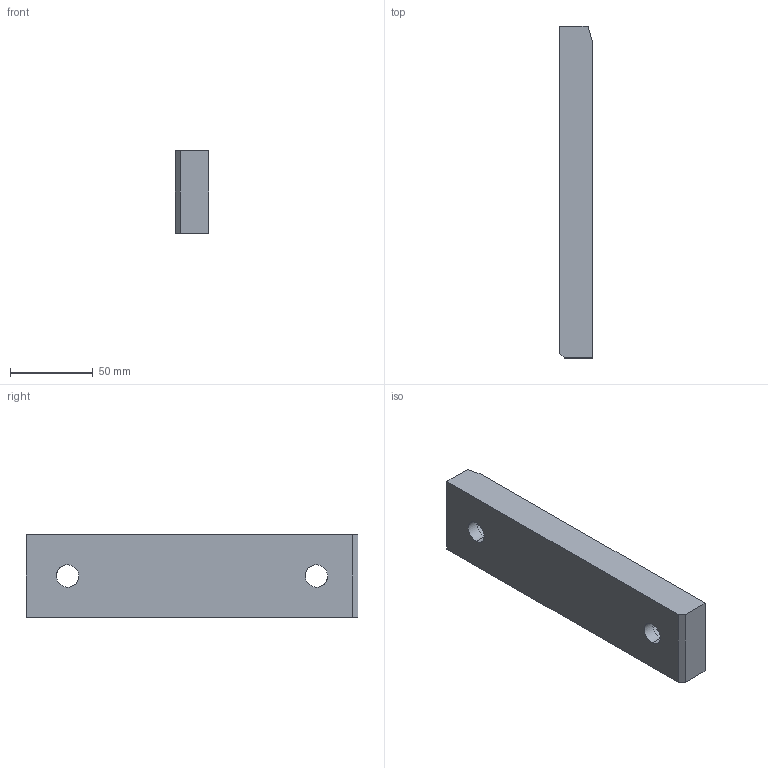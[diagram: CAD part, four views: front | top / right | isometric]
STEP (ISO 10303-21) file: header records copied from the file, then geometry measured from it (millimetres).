
FILE_DESCRIPTION(('CATIA V5 STEP Exchange'),'2;1');
FILE_NAME('C:\Users\borellobunino\Desktop\3D X SITO CF\A915\GSB_OILLESS_G22501050200\A915-50X200.stp','2019-07-14T12:42:00+00:00',('none'),('none'),'CATIA Version 5 Release 20 GA (IN-10)','CATIA V5 STEP AP203','none');
FILE_SCHEMA(('CONFIG_CONTROL_DESIGN'));
Length unit declared in the file: millimetre
Products named in the file (1): A915-50X200
Bounding box: 20 x 200 x 50 mm (x, y, z)
Volume: 188673.1 mm3; surface area: 31260.6 mm2
Topology: 1 solids, 1 shells, 23 faces, 73 edges, 54 vertices
Faces by surface type: plane 10, cylinder 9, torus 4
Entity records: 1057 total; most frequent: CARTESIAN_POINT 375, ORIENTED_EDGE 146, DIRECTION 103, EDGE_CURVE 73, AXIS2_PLACEMENT_3D 54, VERTEX_POINT 54, CIRCLE 30, EDGE_LOOP 29
